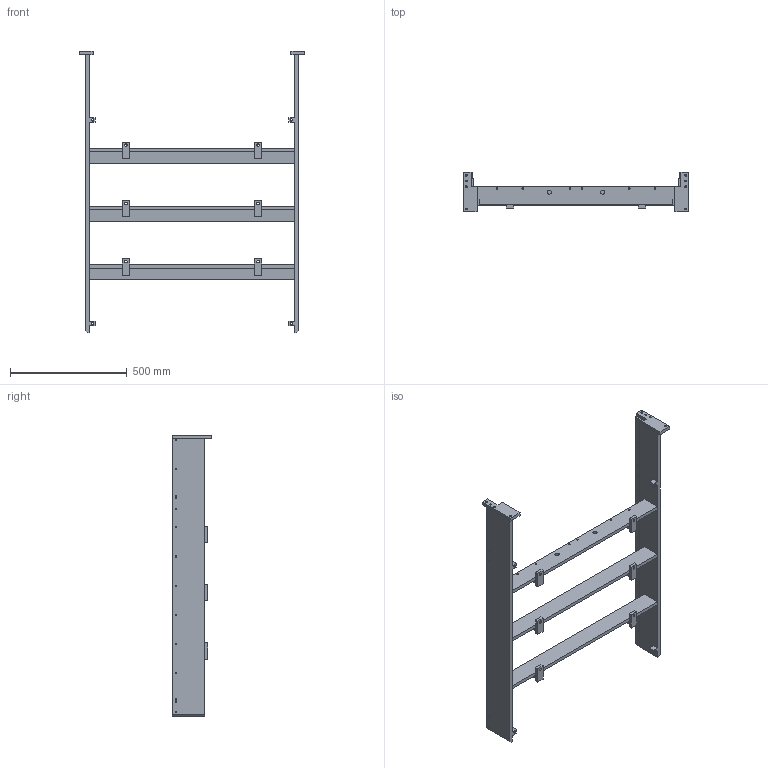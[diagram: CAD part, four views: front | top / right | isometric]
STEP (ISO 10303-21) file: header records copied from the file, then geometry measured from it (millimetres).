
FILE_DESCRIPTION(/* description */ (''),/* implementation_level */ '2;1');
FILE_NAME(/* name */ '191220_telaio_vSimple.stp',/* time_stamp */ '2019-12-20T13:57:54+01:00',/* author */ (''),/* organization */ (''),/* preprocessor_version */ 'ST-DEVELOPER v16.7',/* originating_system */ 'SIEMENS PLM Software NX 12.0',/* authorisation */ '');
FILE_SCHEMA (('AUTOMOTIVE_DESIGN { 1 0 10303 214 3 1 1 1 }'));
Length unit declared in the file: millimetre
Products named in the file (1): bmas05B4E011lojf
Bounding box: 968 x 170 x 1208 mm (x, y, z)
Volume: 9139312 mm3; surface area: 1694624 mm2
Topology: 22 solids, 22 shells, 220 faces, 570 edges, 394 vertices
Faces by surface type: plane 158, cylinder 58, cone 4
Full cylindrical faces by diameter (mm): 3 x4, 5 x20, 6.8 x14, 8 x4, 8.5 x4, 10.3 x4, 11 x6, 18 x2
Entity records: 6339 total; most frequent: CARTESIAN_POINT 1023, DIRECTION 1016, ORIENTED_EDGE 916, EDGE_CURVE 458, EDGE_LOOP 390, VERTEX_POINT 344, LINE 342, VECTOR 342
